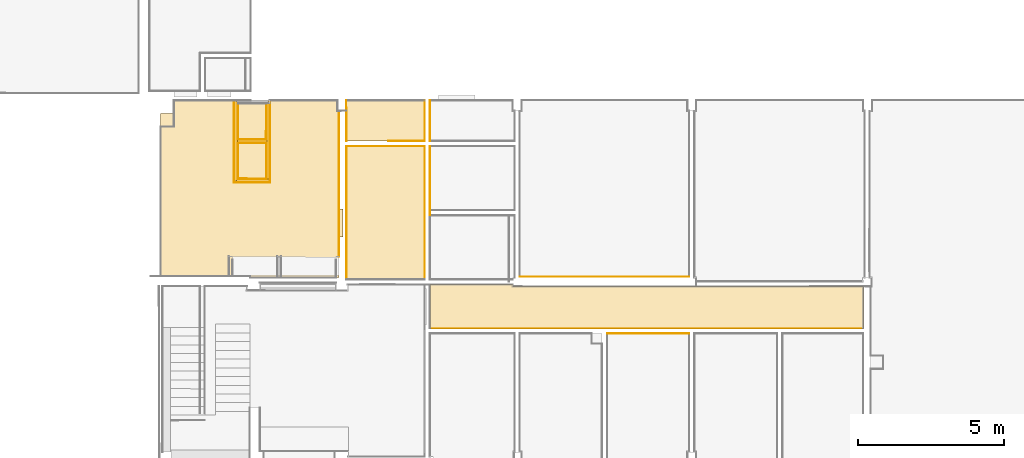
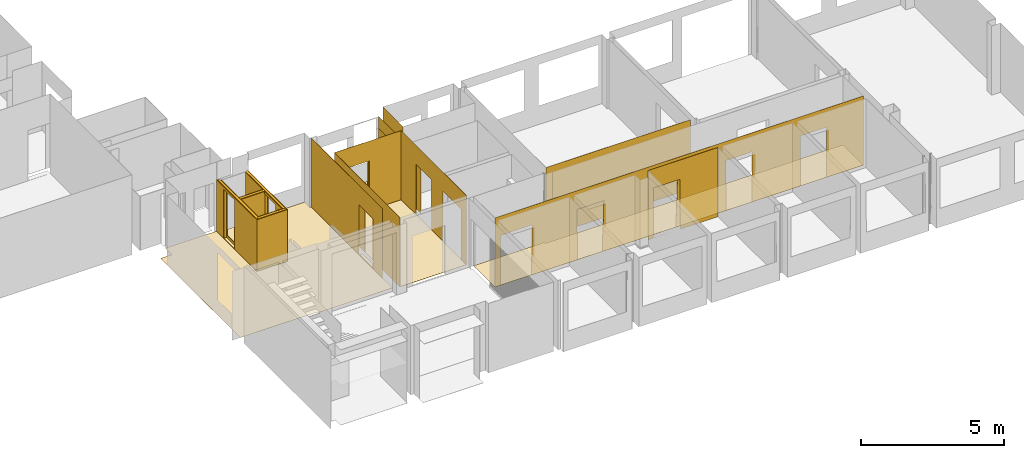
# One storey, part 9 of 33: 32 coverings, 19 openings.
"""IFC2X3 building model written with IfcOpenShell, lengths in millimetres."""

from ifc_helpers import new_model, entity, si_unit, converted_unit, derived_unit, money_unit, direction, frame, origin_with_axes, origin_2d_with_axis, place, context, subcontext, project, spatial, polyline, rectangle, outline, extrude, material, type_object, element, save


model = new_model("IFC2X3")

# Units and contexts
model_context = context("Model", 3, precision=0.01, world=origin_with_axes(), true_north=direction((0.0, 1.0)))
body_context = subcontext(model_context, "Body", "Model", "MODEL_VIEW")
ifc_project = project(units=[si_unit("LENGTHUNIT", "METRE", prefix="MILLI"), si_unit("AREAUNIT", "SQUARE_METRE"), si_unit("VOLUMEUNIT", "CUBIC_METRE"), converted_unit("PLANEANGLEUNIT", "DEGREE", entity("IfcPlaneAngleMeasure", 0.0174532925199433), si_unit("PLANEANGLEUNIT", "RADIAN"), dimensions=[0, 0, 0, 0, 0, 0, 0]), money_unit("EUR"), converted_unit("TIMEUNIT", "Year", entity("IfcTimeMeasure", 31556926.0), si_unit("TIMEUNIT", "SECOND"), dimensions=[0, 0, 1, 0, 0, 0, 0]), si_unit("MASSUNIT", "GRAM", prefix="KILO"), si_unit("THERMODYNAMICTEMPERATUREUNIT", "DEGREE_CELSIUS"), si_unit("LUMINOUSINTENSITYUNIT", "LUMEN"), si_unit("ENERGYUNIT", "JOULE", prefix="MEGA"), derived_unit("THERMALCONDUCTANCEUNIT", [(si_unit("POWERUNIT", "WATT"), 1), (si_unit("LENGTHUNIT", "METRE"), -1), (si_unit("THERMODYNAMICTEMPERATUREUNIT", "KELVIN"), -1)]), derived_unit("SPECIFICHEATCAPACITYUNIT", [(si_unit("ENERGYUNIT", "JOULE"), 1), (si_unit("MASSUNIT", "GRAM", prefix="KILO"), -1), (si_unit("THERMODYNAMICTEMPERATUREUNIT", "KELVIN"), -1)]), derived_unit("MASSDENSITYUNIT", [(si_unit("MASSUNIT", "GRAM", prefix="KILO"), 1), (si_unit("VOLUMEUNIT", "CUBIC_METRE"), -1)])], contexts=[model_context])

# Site, building, storey
site_placement = place(None, origin_with_axes())
site = spatial("IfcSite", under=ifc_project, at=site_placement, Name="Paldiski mnt 245/1, Tallinn, Harjumaa", CompositionType="COMPLEX")
building_placement = place(site_placement, origin_with_axes())
building = spatial("IfcBuilding", under=site, at=building_placement, Name="RKAS Hoone üldnimetus (kasutust iseloomustav) -> IFC Project Manager -> SOLIBRI", CompositionType="ELEMENT")
storey_placement = place(building_placement, origin_with_axes())
storey = spatial("IfcBuildingStorey", under=building, at=storey_placement, Name="Esimene korrus", CompositionType="ELEMENT", Elevation=0.0)

# Coverings
ifc_material_1 = material(Name="SA- PM-7 plaat 15x15")
covering_type_1 = type_object("IfcCoveringType", Name="SA- PM-7 plaat 15x15 8", PredefinedType="FLOORING")
covering_1_placement = place(storey_placement, frame((-41290.00000000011, -6244.999999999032, 0.0), z_axis=(0.0, 0.0, 1.0), x_axis=(1.0, 0.0, 0.0)))
element("IfcCovering", 1, at=covering_1_placement, inside=storey, type_object=covering_type_1, material=ifc_material_1, Name="PM-7", PredefinedType="FLOORING", context=body_context, shape_type="SweptSolid", body=[
    extrude(outline(polyline([(0.0, 0.0), (2689.999910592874, 0.0), (2690.000046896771, 4569.999960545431), (1.13686837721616e-10, 4569.999999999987), (0.0, 0.0)])), origin_with_axes(), (0.0, 0.0, 1.0), 8.0),
])
ifc_material_2 = material(Name="SA- Värv SM4(Niiskuskindel värv)")
covering_type_2 = type_object("IfcCoveringType", Name="SA- Värv SM4(Niiskuskindel värv) 5", PredefinedType="CLADDING")
covering_2_placement = place(storey_placement, frame((-38430.00009975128, -110.000012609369, 0.0), z_axis=(0.0, 0.0, 1.0), x_axis=(7.415168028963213e-09, -1.0, 0.0)))
element("IfcCovering", 2, at=covering_2_placement, inside=storey, type_object=covering_type_2, material=ifc_material_2, Name="SM4", PredefinedType="CLADDING", context=body_context, shape_type="SweptSolid", body=[
    extrude(outline(polyline([(-1.261007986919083e-05, 0.0), (1394.999987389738, 0.0), (1394.999987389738, 5.000000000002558), (-1.257300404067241e-05, 5.000000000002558), (-1.261007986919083e-05, 0.0)])), origin_with_axes(), (0.0, 0.0, 1.0), 2950.0),
])
covering_3_placement = place(storey_placement, frame((-41290.40731919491, -109.9999999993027, 0.0), z_axis=(0.0, 0.0, 1.0), x_axis=(0.0002919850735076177, -0.9999999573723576, 0.0)))
element("IfcCovering", 3, at=covering_3_placement, inside=storey, type_object=covering_type_2, material=ifc_material_2, Name="SM5", PredefinedType="CLADDING", context=body_context, shape_type="SweptSolid", body=[
    extrude(outline(polyline([(0.0, 0.0), (1395.000059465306, 0.0), (1395.000059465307, 5.000000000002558), (0.001459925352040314, 4.999999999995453), (0.0, 0.0)])), origin_with_axes(), (0.0, 0.0, 1.0), 2600.0),
])

# Covering, opening
ifc_material_3 = material(Name="SA- Värv SM5(valge)")
covering_type_3 = type_object("IfcCoveringType", Name="SA- Värv SM5(valge) 5", PredefinedType="CLADDING")
covering_4_placement = place(storey_placement, frame((-41540.00001132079, -469.9999943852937, 0.0), z_axis=(0.0, 0.0, 1.0), x_axis=(6.654001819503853e-09, -1.0, 0.0)))
covering_4 = element("IfcCovering", 4, at=covering_4_placement, inside=storey, type_object=covering_type_3, material=ifc_material_3, Name="SM5", PredefinedType="CLADDING", context=body_context, shape_type="SweptSolid", body=[
    extrude(outline(polyline([(5.000000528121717, -5.000000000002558), (4990.0215245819, -5.000000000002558), (4990.021524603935, 0.0), (4.999999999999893, 0.0), (5.000000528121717, -5.000000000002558)])), origin_with_axes(), (0.0, 0.0, 1.0), 2950.0),
])
opening_1_placement = place(covering_4_placement, frame((-469.999717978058, 41540.00001444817, 0.0), z_axis=(0.0, 0.0, 1.0), x_axis=(6.654001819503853e-09, 1.0, 0.0)))
element("IfcOpeningElement", 5, at=opening_1_placement, cuts=covering_4, Name="AVA", ObjectType="OPENING", context=body_context, shape_type="SweptSolid", body=[
    extrude(rectangle(XDim=978.8077992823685, YDim=2119.719949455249, at=origin_2d_with_axis()), frame((-41550.00004452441, -4315.203043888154, 1062.859974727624), z_axis=(-1.0, -6.654001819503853e-09, 0.0), x_axis=(6.654001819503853e-09, -1.0, 0.0)), (0.0, 0.0, -1.0), 15.00009961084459),
])

covering_5_placement = place(storey_placement, frame((-38599.99995310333, -1675.0000394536, 0.0), z_axis=(0.0, 0.0, 1.0), x_axis=(-0.9999999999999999, 1.466712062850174e-08, 0.0)))
covering_5 = element("IfcCovering", 6, at=covering_5_placement, inside=storey, type_object=covering_type_3, material=ifc_material_3, Name="SM5", PredefinedType="CLADDING", context=body_context, shape_type="SweptSolid", body=[
    extrude(outline(polyline([(0.0, 0.0), (2690.000046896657, 0.0), (2690.000046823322, 4.999999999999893), (5.000000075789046, 4.999999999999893), (0.0, 0.0)])), origin_with_axes(), (0.0, 0.0, 1.0), 2950.0),
])
opening_2_placement = place(covering_5_placement, frame((-38599.9999285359, -1675.000605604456, 0.0), z_axis=(0.0, 0.0, 1.0), x_axis=(-0.9999999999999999, -1.466712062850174e-08, 0.0)))
element("IfcOpeningElement", 7, at=opening_2_placement, cuts=covering_5, Name="AVA", ObjectType="OPENING", context=body_context, shape_type="SweptSolid", body=[
    extrude(rectangle(XDim=1249.99999999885, YDim=2106.460547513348, at=origin_2d_with_axis()), frame((-40515.00000961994, -1669.99996054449, 1056.8481086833), z_axis=(1.466712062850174e-08, 0.9999999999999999, 0.0), x_axis=(-0.9999999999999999, 1.466712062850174e-08, 0.0)), (0.0, 0.0, -1.0), 15.00011836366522),
])

covering_6_placement = place(storey_placement, frame((-41289.99999999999, -1674.999999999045, 0.0), z_axis=(0.0, 0.0, 1.0), x_axis=(0.0, -1.0, 0.0)))
covering_6 = element("IfcCovering", 8, at=covering_6_placement, inside=storey, type_object=covering_type_3, material=ifc_material_3, Name="SM5", PredefinedType="CLADDING", context=body_context, shape_type="SweptSolid", body=[
    extrude(outline(polyline([(0.0, 0.0), (4569.999999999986, 0.0), (4564.999999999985, 5.000000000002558), (0.0, 5.000000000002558), (0.0, 0.0)])), origin_with_axes(), (0.0, 0.0, 1.0), 2950.0),
])
opening_3_placement = place(covering_6_placement, frame((-1674.999999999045, 41289.99999999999, 0.0), z_axis=(0.0, 0.0, 1.0), x_axis=(0.0, 1.0, 0.0)))
element("IfcOpeningElement", 9, at=opening_3_placement, cuts=covering_6, Name="AVA", ObjectType="OPENING", context=body_context, shape_type="SweptSolid", body=[
    extrude(rectangle(XDim=994.7625082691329, YDim=2127.648503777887, at=origin_2d_with_axis()), frame((-41295.00000000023, -4302.493485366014, 1063.824251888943), z_axis=(-1.0, 0.0, 0.0), x_axis=(0.0, -1.0, 0.0)), (0.0, 0.0, -1.0), 15.00000000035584),
])

# Coverings
covering_7_placement = place(storey_placement, frame((-38600.00007931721, -1505.000024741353, 2100.0), z_axis=(0.0, 0.0, 1.0), x_axis=(-7.181407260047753e-09, 1.0, 0.0)))
element("IfcCovering", 10, at=covering_7_placement, inside=storey, type_object=covering_type_3, material=ifc_material_3, Name="SM5", PredefinedType="CLADDING", context=body_context, shape_type="SweptSolid", body=[
    extrude(outline(polyline([(2.474224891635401e-05, 0.0), (1405.000024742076, 0.0), (1405.000024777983, 5.000000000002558), (5.000024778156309, 5.000000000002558), (2.474224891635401e-05, 0.0)])), origin_with_axes(), (0.0, 0.0, 1.0), 500.0),
])
covering_8_placement = place(storey_placement, frame((-35355.00000000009, -6154.000015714, 0.0), z_axis=(0.0, 0.0, 1.0), x_axis=(1.0, 0.0, 0.0)))
element("IfcCovering", 11, at=covering_8_placement, inside=storey, type_object=covering_type_3, material=ifc_material_3, Name="SM5", PredefinedType="CLADDING", context=body_context, shape_type="SweptSolid", body=[
    extrude(outline(polyline([(0.0, 0.0), (5809.999999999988, 0.0), (5809.999999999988, 4.999999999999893), (0.0, 4.999999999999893), (0.0, 0.0)])), origin_with_axes(), (0.0, 0.0, 1.0), 2950.0),
])

# Covering, opening
ifc_material_4 = material(Name="SA- Värv SM6(kollane)")
covering_type_4 = type_object("IfcCoveringType", Name="SA- Värv SM6(kollane) 5", PredefinedType="CLADDING")
covering_9_placement = place(storey_placement, frame((-29545.00000000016, -8084.999999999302, 0.0), z_axis=(0.0, 0.0, 1.0), x_axis=(-1.0, 0.0, 0.0)))
covering_9 = element("IfcCovering", 12, at=covering_9_placement, inside=storey, type_object=covering_type_4, material=ifc_material_4, Name="SM6", PredefinedType="CLADDING", context=body_context, shape_type="SweptSolid", body=[
    extrude(outline(polyline([(0.0, 0.0), (2820.000000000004, 0.0), (2820.000000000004, 5.000000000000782), (0.0, 5.000000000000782), (0.0, 0.0)])), origin_with_axes(), (0.0, 0.0, 1.0), 2950.0),
])
opening_4_placement = place(covering_9_placement, frame((-29545.00000000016, -8084.999999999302, 0.0), z_axis=(0.0, 0.0, 1.0), x_axis=(-1.0, 0.0, 0.0)))
element("IfcOpeningElement", 13, at=opening_4_placement, cuts=covering_9, Name="AVA", ObjectType="OPENING", context=body_context, shape_type="SweptSolid", body=[
    extrude(outline(polyline([(-545.8400765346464, -1068.288262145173), (535.2321227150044, -1065.288262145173), (545.8400765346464, 1068.288262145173), (-534.1975756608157, 1057.636187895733), (-545.8400765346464, -1068.288262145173)])), frame((-31609.23361810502, -8079.999999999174, 1068.288262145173), z_axis=(0.0, 1.0, 0.0), x_axis=(-1.0, 0.0, 0.0)), (0.0, 0.0, -1.0), 15.00000000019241),
])

# Covering, openings
covering_10_placement = place(storey_placement, frame((-38600.00008940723, -6244.999999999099, 0.0), z_axis=(0.0, 0.0, 1.0), x_axis=(2.982579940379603e-08, 0.9999999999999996, 0.0)))
covering_10 = element("IfcCovering", 14, at=covering_10_placement, inside=storey, type_object=covering_type_4, material=ifc_material_4, Name="SM6", PredefinedType="CLADDING", context=body_context, shape_type="SweptSolid", body=[
    extrude(outline(polyline([(4.999999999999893, 0.0), (4569.999999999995, 0.0), (4569.999999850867, 5.000000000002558), (4.999999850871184, 5.000000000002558), (4.999999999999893, 0.0)])), origin_with_axes(), (0.0, 0.0, 1.0), 2950.0),
])
opening_5_placement = place(covering_10_placement, frame((6245.001151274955, -38599.99990314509, 0.0), z_axis=(0.0, 0.0, 1.0), x_axis=(2.982579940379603e-08, -0.9999999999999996, 0.0)))
element("IfcOpeningElement", 15, at=opening_5_placement, cuts=covering_10, Name="AVA", ObjectType="OPENING", context=body_context, shape_type="SweptSolid", body=[
    extrude(rectangle(XDim=1260.524053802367, YDim=2139.179745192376, at=origin_2d_with_axis()), frame((-38594.99981679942, -5233.267370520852, 1072.589872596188), z_axis=(0.9999999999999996, -2.982579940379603e-08, 0.0), x_axis=(2.982579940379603e-08, 0.9999999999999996, 0.0)), (0.0, 0.0, -1.0), 15.00040891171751),
])
opening_6_placement = place(covering_10_placement, frame((6245.001151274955, -38599.99990314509, 0.0), z_axis=(0.0, 0.0, 1.0), x_axis=(2.982579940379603e-08, -0.9999999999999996, 0.0)))
element("IfcOpeningElement", 16, at=opening_6_placement, cuts=covering_10, Name="AVA", ObjectType="OPENING", context=body_context, shape_type="SweptSolid", body=[
    extrude(rectangle(XDim=1080.897281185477, YDim=2139.179745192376, at=origin_2d_with_axis()), frame((-38594.99981679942, -3271.551359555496, 1072.589872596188), z_axis=(0.9999999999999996, -2.982579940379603e-08, 0.0), x_axis=(2.982579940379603e-08, 0.9999999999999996, 0.0)), (0.0, 0.0, -1.0), 15.00040891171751),
])

ifc_material_5 = material(Name="SA- Värv SM8(helebeez)")
covering_type_5 = type_object("IfcCoveringType", Name="SA- Värv SM8(helebeez) 5", PredefinedType="CLADDING")
covering_11_placement = place(storey_placement, frame((-38430.00008940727, -7914.999999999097, 0.0), z_axis=(0.0, 0.0, 1.0), x_axis=(1.0, 0.0, 0.0)))
covering_11 = element("IfcCovering", 17, at=covering_11_placement, inside=storey, type_object=covering_type_5, material=ifc_material_5, Name="SM8", PredefinedType="CLADDING", context=body_context, shape_type="SweptSolid", body=[
    extrude(outline(polyline([(0.0, 0.0), (14840.00008940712, 0.0), (14835.00008961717, 4.999999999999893), (5.000000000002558, 4.999999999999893), (0.0, 0.0)])), origin_with_axes(), (0.0, 0.0, 1.0), 2950.0),
])
opening_7_placement = place(covering_11_placement, frame((38430.00008940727, 7914.999999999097, 0.0), z_axis=(0.0, 0.0, 1.0), x_axis=(1.0, 0.0, 0.0)))
element("IfcOpeningElement", 18, at=opening_7_placement, cuts=covering_11, Name="AVA", ObjectType="OPENING", context=body_context, shape_type="SweptSolid", body=[
    extrude(outline(polyline([(-637.9001708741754, -1066.559192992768), (614.87179309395, -1066.559192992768), (642.5252908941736, 1066.559192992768), (-642.5252908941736, 1053.750834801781), (-637.9001708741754, -1066.559192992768)])), frame((-37568.90507822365, -7919.999999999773, 1069.559192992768), z_axis=(0.0, -1.0, 0.0), x_axis=(1.0, 0.0, 0.0)), (0.0, 0.0, -1.0), 15.00000000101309),
])
opening_8_placement = place(covering_11_placement, frame((38430.00008940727, 7914.999999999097, 0.0), z_axis=(0.0, 0.0, 1.0), x_axis=(1.0, 0.0, 0.0)))
element("IfcOpeningElement", 19, at=opening_8_placement, cuts=covering_11, Name="AVA", ObjectType="OPENING", context=body_context, shape_type="SweptSolid", body=[
    extrude(outline(polyline([(-510.3693169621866, -1077.148179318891), (463.6451527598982, -1077.148179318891), (527.4399061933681, 1077.148179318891), (-527.4399061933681, 1077.148179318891), (-510.3693169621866, -1077.148179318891)])), frame((-31604.63068303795, -7919.999999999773, 1077.148179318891), z_axis=(0.0, -1.0, 0.0), x_axis=(1.0, 0.0, 0.0)), (0.0, 0.0, -1.0), 15.00000000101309),
])
opening_9_placement = place(covering_11_placement, frame((38430.00008940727, 7914.999999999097, 0.0), z_axis=(0.0, 0.0, 1.0), x_axis=(1.0, 0.0, 0.0)))
element("IfcOpeningElement", 20, at=opening_9_placement, cuts=covering_11, Name="AVA", ObjectType="OPENING", context=body_context, shape_type="SweptSolid", body=[
    extrude(outline(polyline([(-523.3620821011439, -1077.148179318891), (476.6379178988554, -1077.148179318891), (540.4326713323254, 1077.148179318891), (-540.4326713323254, 1077.148179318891), (-523.3620821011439, -1077.148179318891)])), frame((-34581.637917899, -7919.999999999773, 1077.148179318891), z_axis=(0.0, -1.0, 0.0), x_axis=(1.0, 0.0, 0.0)), (0.0, 0.0, -1.0), 15.00000000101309),
])
opening_10_placement = place(covering_11_placement, frame((38430.00008940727, 7914.999999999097, 0.0), z_axis=(0.0, 0.0, 1.0), x_axis=(1.0, 0.0, 0.0)))
element("IfcOpeningElement", 21, at=opening_10_placement, cuts=covering_11, Name="AVA", ObjectType="OPENING", context=body_context, shape_type="SweptSolid", body=[
    extrude(rectangle(XDim=1042.817592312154, YDim=2136.91456538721, at=origin_2d_with_axis()), frame((-28605.43837145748, -7919.999999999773, 1068.457282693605), z_axis=(0.0, -1.0, 0.0), x_axis=(1.0, 0.0, 0.0)), (0.0, 0.0, -1.0), 15.00000000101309),
])
opening_11_placement = place(covering_11_placement, frame((38430.00008940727, 7914.999999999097, 0.0), z_axis=(0.0, 0.0, 1.0), x_axis=(1.0, 0.0, 0.0)))
element("IfcOpeningElement", 22, at=opening_11_placement, cuts=covering_11, Name="AVA", ObjectType="OPENING", context=body_context, shape_type="SweptSolid", body=[
    extrude(rectangle(XDim=1042.817592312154, YDim=2136.91456538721, at=origin_2d_with_axis()), frame((-25596.50995464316, -7919.999999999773, 1068.457282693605), z_axis=(0.0, -1.0, 0.0), x_axis=(1.0, 0.0, 0.0)), (0.0, 0.0, -1.0), 15.00000000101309),
])

# Coverings
ifc_material_6 = material(Name="SA- PM-6 vinüül")
covering_type_6 = type_object("IfcCoveringType", Name="SA- PM-6 vinüül 3", PredefinedType="FLOORING")
covering_12_placement = place(storey_placement, frame((-38426.98503930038, -7911.023404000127, 0.0), z_axis=(0.0, 0.0, 1.0), x_axis=(1.0, 0.0, 0.0)))
element("IfcCovering", 23, at=covering_12_placement, inside=storey, type_object=covering_type_6, material=ifc_material_6, Name="PM-6", PredefinedType="FLOORING", context=body_context, shape_type="SweptSolid", body=[
    extrude(outline(polyline([(0.0, 0.0), (14836.98503930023, -3.976595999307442), (14836.9850995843, 1431.023435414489), (2840.936698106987, 1427.137043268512), (2840.983263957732, 1498.137043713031), (0.9837853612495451, 1499.999677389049), (0.0, 0.0)])), origin_with_axes(), (0.0, 0.0, 1.0), 3.0),
])
covering_13_placement = place(storey_placement, frame((-41540.00000000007, -4784.999999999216, 0.0), z_axis=(0.0, 0.0, 1.0), x_axis=(1.0, 0.0, 0.0)))
element("IfcCovering", 24, at=covering_13_placement, inside=storey, type_object=covering_type_6, material=ifc_material_6, Name="PM-6", PredefinedType="FLOORING", context=body_context, shape_type="SweptSolid", body=[
    extrude(outline(polyline([(0.0, 0.0), (134.7404309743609, 0.2746418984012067), (135.1447451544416, 950.402729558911), (0.0, 950.0000000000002), (-5.313813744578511e-05, 4315.000047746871), (-49.999999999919, 4315.000000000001), (-49.99999999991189, 4675.000000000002), (-2374.264579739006, 4675.000000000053), (-2374.32527153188, 4582.57724689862), (-3582.454926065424, 4583.369458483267), (-3582.394866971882, 4675.000000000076), (-5654.999999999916, 4675.000000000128), (-5654.999868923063, 4220.000000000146), (-6109.999999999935, 4220.00000000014), (-6110.000000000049, -1345.084087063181), (-3050.000000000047, -1345.08408706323), (-3050.000000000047, -1393.999999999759), (2.176309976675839e-05, -1393.999999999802), (0.0, 0.0)])), origin_with_axes(), (0.0, 0.0, 1.0), 3.0),
])
covering_14_placement = place(storey_placement, frame((-38426.98503930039, -7911.023403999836, 0.0), z_axis=(0.0, 0.0, 1.0), x_axis=(1.0, 0.0, 0.0)))
element("IfcCovering", 25, at=covering_14_placement, inside=storey, type_object=covering_type_6, material=ifc_material_6, Name="PM-6", PredefinedType="FLOORING", context=body_context, shape_type="SweptSolid", body=[
    extrude(outline(polyline([(0.0, 0.0), (14836.98503930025, -3.976595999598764), (14836.98509958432, 1431.023435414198), (2840.936698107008, 1427.137043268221), (2840.983263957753, 1498.13704371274), (0.9837853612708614, 1499.999677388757), (0.0, 0.0)])), origin_with_axes(), (0.0, 0.0, 1.0), 3.0),
])
covering_type_7 = type_object("IfcCoveringType", Name="SA- PM-7 plaat 15x15 2", PredefinedType="FLOORING")
covering_15_placement = place(storey_placement, frame((-41132.78030335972, -1499.247390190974, 0.0), z_axis=(0.0, 0.0, 1.0), x_axis=(1.0, 0.0, 0.0)))
element("IfcCovering", 26, at=covering_15_placement, inside=storey, type_object=covering_type_7, material=ifc_material_1, Name="PM-7", PredefinedType="FLOORING", context=body_context, shape_type="SweptSolid", body=[
    extrude(outline(polyline([(0.0, 0.0), (2539.999424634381, -1.551471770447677), (2540.914263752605, 1393.333753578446), (-149.0850706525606, 1395.098055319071), (-149.9999931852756, 0.09835042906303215), (0.0, 0.0)])), origin_with_axes(), (0.0, 0.0, 1.0), 2.0),
])

# Covering, opening
ifc_material_7 = material(Name="SA- Plaat SM11(tumehall)")
covering_type_8 = type_object("IfcCoveringType", Name="SA- Plaat SM11(tumehall) 5", PredefinedType="CLADDING")
covering_16_placement = place(storey_placement, frame((-38430.00008940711, -1674.999999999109, 0.0), z_axis=(0.0, 0.0, 1.0), x_axis=(0.0, -1.0, 0.0)))
covering_16 = element("IfcCovering", 27, at=covering_16_placement, inside=storey, type_object=covering_type_8, material=ifc_material_7, Name="SM11", PredefinedType="CLADDING", context=body_context, shape_type="SweptSolid", body=[
    extrude(outline(polyline([(0.0, 0.0), (2369.999999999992, 0.0), (2369.999999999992, 5.000000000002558), (0.0, 5.000000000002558), (0.0, 0.0)])), origin_with_axes(), (0.0, 0.0, 1.0), 2300.0),
])
opening_12_placement = place(covering_16_placement, frame((-1674.999999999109, 38430.00008940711, 0.0), z_axis=(0.0, 0.0, 1.0), x_axis=(0.0, 1.0, 0.0)))
element("IfcOpeningElement", 28, at=opening_12_placement, cuts=covering_16, Name="AVA", ObjectType="OPENING", context=body_context, shape_type="SweptSolid", body=[
    extrude(rectangle(XDim=1043.881668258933, YDim=2138.911781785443, at=origin_2d_with_axis()), frame((-38435.00008940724, -3283.044831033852, 1069.455890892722), z_axis=(-1.0, 0.0, 0.0), x_axis=(0.0, -1.0, 0.0)), (0.0, 0.0, -1.0), 15.00000000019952),
])

ifc_material_8 = material(Name="SA- Laudis SM3(vert. laudis)")
covering_type_9 = type_object("IfcCoveringType", Name="SA- Laudis SM3(vert. laudis) 18", PredefinedType="CLADDING")
covering_17_placement = place(storey_placement, frame((-45015.14484267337, -1451.70112465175, 0.0), z_axis=(0.0, 0.0, 1.0), x_axis=(0.000655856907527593, 0.9999997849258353, 0.0)))
covering_17 = element("IfcCovering", 29, at=covering_17_placement, inside=storey, type_object=covering_type_9, material=ifc_material_8, Name="SM14", PredefinedType="CLADDING", context=body_context, shape_type="SweptSolid", body=[
    extrude(outline(polyline([(0.0, -17.99999999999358), (1249.999999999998, -17.99999999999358), (1249.999999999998, 0.0), (0.0, 0.0), (0.0, -17.99999999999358)])), origin_with_axes(), (0.0, 0.0, 1.0), 2200.0),
])
opening_13_placement = place(covering_17_placement, frame((1481.224306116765, -45014.18305286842, 0.0), z_axis=(0.0, 0.0, 1.0), x_axis=(0.000655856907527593, -0.9999997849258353, 0.0)))
element("IfcOpeningElement", 30, at=opening_13_placement, cuts=covering_17, Name="AVA", ObjectType="OPENING", context=body_context, shape_type="SweptSolid", body=[
    extrude(rectangle(XDim=750.9718924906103, YDim=2014.902201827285, at=origin_2d_with_axis()), frame((-44977.37403676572, -996.4316452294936, 1108.012908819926), z_axis=(0.9999997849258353, -0.000655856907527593, 0.0), x_axis=(0.000655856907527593, 0.9999997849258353, 0.0)), (0.0, 0.0, -1.0), 56.65622104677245),
])

covering_18_placement = place(storey_placement, frame((-45122.39486697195, -109.9999999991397, 0.0), z_axis=(0.0, 0.0, 1.0), x_axis=(0.0, -1.0, 0.0)))
covering_18 = element("IfcCovering", 31, at=covering_18_placement, inside=storey, type_object=covering_type_9, material=ifc_material_8, Name="SM14", PredefinedType="CLADDING", context=body_context, shape_type="SweptSolid", body=[
    extrude(outline(polyline([(0.0, -18.00000000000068), (2818.1443393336, -18.00000000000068), (2800.142217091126, 0.0), (0.0, 0.0), (0.0, -18.00000000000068)])), origin_with_axes(), (0.0, 0.0, 1.0), 2200.0),
])
opening_14_placement = place(covering_18_placement, frame((-109.9999999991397, 45122.39486697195, 0.0), z_axis=(0.0, 0.0, 1.0), x_axis=(0.0, 1.0, 0.0)))
element("IfcOpeningElement", 32, at=opening_14_placement, cuts=covering_18, Name="AVA", ObjectType="OPENING", context=body_context, shape_type="SweptSolid", body=[
    extrude(rectangle(XDim=749.9999999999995, YDim=2096.625841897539, at=origin_2d_with_axis()), frame((-45158.39486697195, -993.082475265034, 1051.31292094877), z_axis=(-1.0, 0.0, 0.0), x_axis=(0.0, -1.0, 0.0)), (0.0, 0.0, -1.0), 54.00000000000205),
])

covering_19_placement = place(storey_placement, frame((-43916.09607177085, -2909.999999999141, 0.0), z_axis=(0.0, 0.0, 1.0), x_axis=(0.0006540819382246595, 0.9999997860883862, 0.0)))
covering_19 = element("IfcCovering", 33, at=covering_19_placement, inside=storey, type_object=covering_type_9, material=ifc_material_8, Name="SM14", PredefinedType="CLADDING", context=body_context, shape_type="SweptSolid", body=[
    extrude(outline(polyline([(-17.98610976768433, -18.00000000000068), (2800.01237243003, -18.00000000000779), (2800.000598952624, 0.0), (0.0, 0.0), (-17.98610976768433, -18.00000000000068)])), origin_with_axes(), (0.0, 0.0, 1.0), 2200.0),
])
opening_15_placement = place(covering_19_placement, frame((2938.724102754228, -43914.18329916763, 0.0), z_axis=(0.0, 0.0, 1.0), x_axis=(0.0006540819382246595, -0.9999997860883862, 0.0)))
element("IfcOpeningElement", 34, at=opening_15_placement, cuts=covering_19, Name="AVA", ObjectType="OPENING", context=body_context, shape_type="SweptSolid", body=[
    extrude(rectangle(XDim=749.4842311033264, YDim=2097.0, at=origin_2d_with_axis()), frame((-43876.43321983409, -1952.280541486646, 1051.5), z_axis=(0.9999997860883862, -0.0006540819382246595, 0.0), x_axis=(0.0006540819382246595, 0.9999997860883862, 0.0)), (0.0, 0.0, -1.0), 59.49429063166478),
])

# Coverings
covering_20_placement = place(storey_placement, frame((-43922.39486697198, -2802.418102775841, 0.0), z_axis=(0.0, 0.0, 1.0), x_axis=(-0.9999997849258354, 0.0006558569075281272, 0.0)))
element("IfcCovering", 35, at=covering_20_placement, inside=storey, type_object=covering_type_9, material=ifc_material_8, Name="SM14", PredefinedType="CLADDING", context=body_context, shape_type="SweptSolid", body=[
    extrude(outline(polyline([(100.011826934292, -17.99999999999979), (1093.635617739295, -17.99999999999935), (1093.635617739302, 0.0), (100.0000215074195, 0.0), (100.011826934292, -17.99999999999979)])), origin_with_axes(), (0.0, 0.0, 1.0), 2200.0),
])
covering_21_placement = place(storey_placement, frame((-45122.39486697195, -2910.142217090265, 0.0), z_axis=(0.0, 0.0, 1.0), x_axis=(0.9999999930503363, 0.0001178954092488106, 0.0)))
element("IfcCovering", 36, at=covering_21_placement, inside=storey, type_object=covering_type_9, material=ifc_material_8, Name="SM14", PredefinedType="CLADDING", context=body_context, shape_type="SweptSolid", body=[
    extrude(outline(polyline([(-18.00212224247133, -18.00000000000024), (1224.284913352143, -18.00000000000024), (1206.298803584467, 0.0), (0.0, 0.0), (-18.00212224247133, -18.00000000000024)])), origin_with_axes(), (0.0, 0.0, 1.0), 2200.0),
])
covering_22_placement = place(storey_placement, frame((-45016.03024949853, -2801.700834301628, 0.0), z_axis=(0.0, 0.0, 1.0), x_axis=(0.0006558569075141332, 0.9999997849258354, 0.0)))
element("IfcCovering", 37, at=covering_22_placement, inside=storey, type_object=covering_type_9, material=ifc_material_8, Name="SM14", PredefinedType="CLADDING", context=body_context, shape_type="SweptSolid", body=[
    extrude(outline(polyline([(18.00000000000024, -18.00000000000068), (1241.712906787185, -18.00000000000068), (1241.701101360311, 0.0), (18.00000000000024, 0.0), (18.00000000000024, -18.00000000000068)])), origin_with_axes(), (0.0, 0.0, 1.0), 2200.0),
])
covering_23_placement = place(storey_placement, frame((-45015.21587125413, -1559.999999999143, 0.0), z_axis=(0.0, 0.0, 1.0), x_axis=(1.0, 0.0, 0.0)))
element("IfcCovering", 38, at=covering_23_placement, inside=storey, type_object=covering_type_9, material=ifc_material_8, Name="SM14", PredefinedType="CLADDING", context=body_context, shape_type="SweptSolid", body=[
    extrude(outline(polyline([(17.98819844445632, -18.00000000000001), (992.8210042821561, -18.00000000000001), (992.8210042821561, 0.0), (18.00000387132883, 0.0), (17.98819844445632, -18.00000000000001)])), origin_with_axes(), (0.0, 0.0, 1.0), 2200.0),
])
covering_24_placement = place(storey_placement, frame((-44022.39486697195, -202.3519578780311, 0.0), z_axis=(0.0, 0.0, 1.0), x_axis=(-0.0006558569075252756, -0.9999997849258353, 0.0)))
element("IfcCovering", 39, at=covering_24_placement, inside=storey, type_object=covering_type_9, material=ifc_material_8, Name="SM14", PredefinedType="CLADDING", context=body_context, shape_type="SweptSolid", body=[
    extrude(outline(polyline([(18.00000000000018, -18.00000000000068), (1250.000000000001, -18.00000000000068), (1250.000000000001, 0.0), (0.0, 0.0), (18.00000000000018, -18.00000000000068)])), origin_with_axes(), (0.0, 0.0, 1.0), 2200.0),
])
covering_25_placement = place(storey_placement, frame((-44023.21468810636, -1452.351689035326, 0.0), z_axis=(0.0, 0.0, 1.0), x_axis=(-0.9999997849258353, 0.0006558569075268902, 0.0)))
element("IfcCovering", 40, at=covering_25_placement, inside=storey, type_object=covering_type_9, material=ifc_material_8, Name="SM14", PredefinedType="CLADDING", context=body_context, shape_type="SweptSolid", body=[
    extrude(outline(polyline([(0.0, -18.00000000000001), (991.9303679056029, -18.00000000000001), (991.9303679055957, 0.0), (0.0, 0.0), (0.0, -18.00000000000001)])), origin_with_axes(), (0.0, 0.0, 1.0), 2200.0),
])

# Covering, opening
covering_26_placement = place(storey_placement, frame((-44022.39486697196, -1559.999999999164, 0.0), z_axis=(0.0, 0.0, 1.0), x_axis=(0.0, -1.0, 0.0)))
covering_26 = element("IfcCovering", 41, at=covering_26_placement, inside=storey, type_object=covering_type_9, material=ifc_material_8, Name="SM14", PredefinedType="CLADDING", context=body_context, shape_type="SweptSolid", body=[
    extrude(outline(polyline([(17.99999999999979, -18.00000000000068), (1224.340707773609, -18.00000000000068), (1224.352513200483, 0.0), (18.00000000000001, 0.0), (17.99999999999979, -18.00000000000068)])), origin_with_axes(), (0.0, 0.0, 1.0), 2200.0),
])
opening_16_placement = place(covering_26_placement, frame((-1559.999999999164, 44022.39486697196, 0.0), z_axis=(0.0, 0.0, 1.0), x_axis=(0.0, 1.0, 0.0)))
element("IfcOpeningElement", 42, at=opening_16_placement, cuts=covering_26, Name="AVA", ObjectType="OPENING", context=body_context, shape_type="SweptSolid", body=[
    extrude(rectangle(XDim=757.9167213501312, YDim=2097.000000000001, at=origin_2d_with_axis()), frame((-44058.39486697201, -1956.958360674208, 1051.500000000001), z_axis=(-1.0, 0.0, 0.0), x_axis=(0.0, -1.0, 0.0)), (0.0, 0.0, -1.0), 54.00000000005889),
])

ifc_material_9 = material(Name="KON-00_GENEERILINE - KONSTRUKTSIOON")
covering_type_10 = type_object("IfcCoveringType", Name="KON-00_GENEERILINE - KONSTRUKTSIOON 100", PredefinedType="CLADDING")
covering_27_placement = place(storey_placement, frame((-43916.0304860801, -2802.422276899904, 0.0), z_axis=(0.0, 0.0, 1.0), x_axis=(0.0006558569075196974, 0.9999997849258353, 0.0)))
covering_27 = element("IfcCovering", 43, at=covering_27_placement, inside=storey, type_object=covering_type_10, material=ifc_material_9, Name="SM-3", PredefinedType="CLADDING", context=body_context, shape_type="SweptSolid", body=[
    extrude(outline(polyline([(0.0, 0.0), (2699.999999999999, 0.0), (2599.999999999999, 100.0000000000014), (0.0, 100.0000000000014), (0.0, 0.0)])), origin_with_axes(), (0.0, 0.0, 1.0), 2200.0),
])
opening_17_placement = place(covering_27_placement, frame((858.2984925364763, 0.0, 0.0), z_axis=(0.0, 0.0, 1.0), x_axis=(1.0, 0.0, 0.0)))
element("IfcOpeningElement", 44, at=opening_17_placement, cuts=covering_27, Name="SU-02v", context=body_context, shape_type="SweptSolid", body=[
    extrude(rectangle(XDim=749.9999999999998, YDim=2100.0, at=origin_2d_with_axis()), frame((0.0, -100.0000000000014, 1049.999999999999), z_axis=(0.0, -1.0, 0.0), x_axis=(1.0, 0.0, 0.0)), (0.0, 0.0, -1.0), 300.0000000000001),
])

# Covering
covering_28_placement = place(storey_placement, frame((-45116.09581368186, -2901.635227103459, 0.0), z_axis=(0.0, 0.0, 1.0), x_axis=(0.9999997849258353, -0.0006558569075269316, 0.0)))
element("IfcCovering", 45, at=covering_28_placement, inside=storey, type_object=covering_type_10, material=ifc_material_9, Name="SM-3", PredefinedType="CLADDING", context=body_context, shape_type="SweptSolid", body=[
    extrude(outline(polyline([(0.0, 0.0), (1200.004956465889, 0.0), (1200.004778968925, 99.99999999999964), (100.0000000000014, 100.0000000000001), (0.0, 0.0)])), origin_with_axes(), (0.0, 0.0, 1.0), 2200.0),
])

# Covering, opening
covering_29_placement = place(storey_placement, frame((-45114.2594143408, -101.6358293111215, 0.0), z_axis=(0.0, 0.0, 1.0), x_axis=(-0.0006558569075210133, -0.9999997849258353, 0.0)))
covering_29 = element("IfcCovering", 46, at=covering_29_placement, inside=storey, type_object=covering_type_10, material=ifc_material_9, Name="SS-59", PredefinedType="CLADDING", context=body_context, shape_type="SweptSolid", body=[
    extrude(outline(polyline([(0.0, 0.0), (2799.999999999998, 0.0), (2699.999999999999, 100.0000000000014), (100.0000000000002, 99.99999999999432), (0.0, 0.0)])), origin_with_axes(), (0.0, 0.0, 1.0), 2200.0),
])
opening_18_placement = place(covering_29_placement, frame((883.0824752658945, 0.0, 0.0), z_axis=(0.0, 0.0, 1.0), x_axis=(1.0, 0.0, 0.0)))
element("IfcOpeningElement", 47, at=opening_18_placement, cuts=covering_29, Name="SU-01v", context=body_context, shape_type="SweptSolid", body=[
    extrude(rectangle(XDim=750.0, YDim=2100.0, at=origin_2d_with_axis()), frame((0.0, -100.0000000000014, 1050.0), z_axis=(0.0, -1.0, 0.0), x_axis=(1.0, 0.0, 0.0)), (0.0, 0.0, -1.0), 300.0000000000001),
])

# Coverings
covering_30_placement = place(storey_placement, frame((-43915.14507925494, -1452.422567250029, 0.0), z_axis=(0.0, 0.0, 1.0), x_axis=(-0.9999997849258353, 0.0006558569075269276, 0.0)))
element("IfcCovering", 48, at=covering_30_placement, inside=storey, type_object=covering_type_10, material=ifc_material_9, Name="SS-63", PredefinedType="CLADDING", context=body_context, shape_type="SweptSolid", body=[
    extrude(outline(polyline([(100.0000000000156, 0.0), (1100.000000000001, 0.0), (1100.000000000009, 100.0000000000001), (100.0000000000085, 100.0000000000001), (100.0000000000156, 0.0)])), origin_with_axes(), (0.0, 0.0, 1.0), 2200.0),
])
ifc_material_10 = material(Name="SA- Plaat SM9(hele)")
covering_type_11 = type_object("IfcCoveringType", Name="SA- Plaat SM9(hele) 5", PredefinedType="CLADDING")
covering_31_placement = place(storey_placement, frame((-38600.00008940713, -1504.999999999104, 0.0), z_axis=(0.0, 0.0, 1.0), x_axis=(0.0, 1.0, 0.0)))
element("IfcCovering", 49, at=covering_31_placement, inside=storey, type_object=covering_type_11, material=ifc_material_10, Name="SM9", PredefinedType="CLADDING", context=body_context, shape_type="SweptSolid", body=[
    extrude(outline(polyline([(0.0, 0.0), (1404.999999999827, 0.0), (1404.999999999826, 5.000000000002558), (5.000000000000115, 5.000000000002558), (0.0, 0.0)])), origin_with_axes(), (0.0, 0.0, 1.0), 2100.0),
])

# Covering, opening
covering_32_placement = place(storey_placement, frame((-39849.420303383, -1504.999999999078, 0.0), z_axis=(0.0, 0.0, 1.0), x_axis=(1.0, 0.0, 0.0)))
covering_32 = element("IfcCovering", 50, at=covering_32_placement, inside=storey, type_object=covering_type_11, material=ifc_material_10, Name="SM9", PredefinedType="CLADDING", context=body_context, shape_type="SweptSolid", body=[
    extrude(outline(polyline([(0.0, 0.0), (1249.420213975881, 0.0), (1244.420213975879, 4.999999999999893), (0.0, 4.999999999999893), (0.0, 0.0)])), origin_with_axes(), (0.0, 0.0, 1.0), 2100.0),
])
opening_19_placement = place(covering_32_placement, frame((39849.420303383, 1504.999999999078, 0.0), z_axis=(0.0, 0.0, 1.0), x_axis=(1.0, 0.0, 0.0)))
element("IfcOpeningElement", 51, at=opening_19_placement, cuts=covering_32, Name="AVA", ObjectType="OPENING", context=body_context, shape_type="SweptSolid", body=[
    extrude(rectangle(XDim=884.3027641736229, YDim=462.9260158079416, at=origin_2d_with_axis()), frame((-39147.46982469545, -1509.999999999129, 2331.463007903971), z_axis=(0.0, -1.0, 0.0), x_axis=(1.0, 0.0, 0.0)), (0.0, 0.0, -1.0), 15.00000000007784),
])

save(model, "model.ifc")
